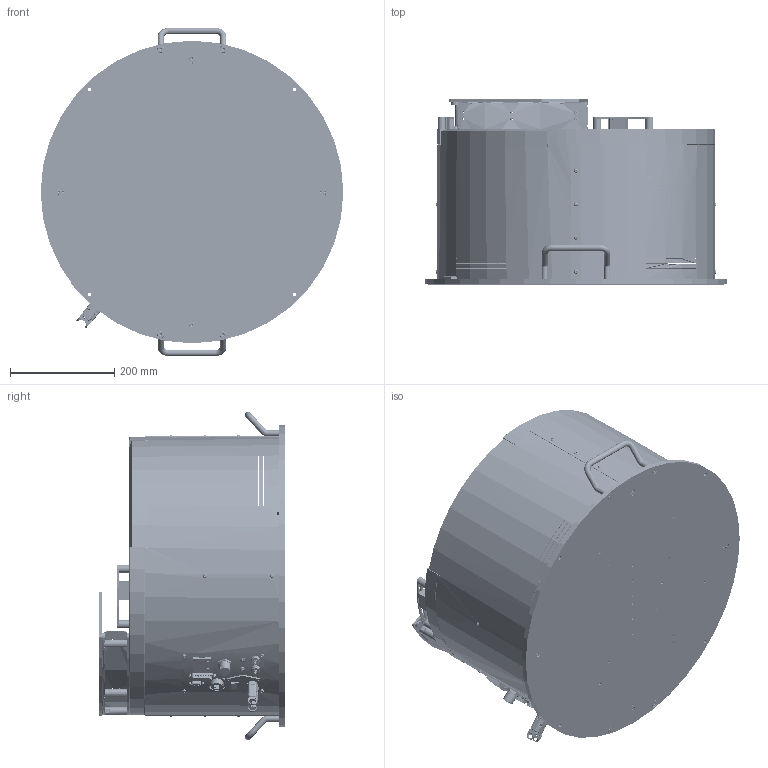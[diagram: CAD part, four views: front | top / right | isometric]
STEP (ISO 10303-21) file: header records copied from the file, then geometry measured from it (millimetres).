
FILE_DESCRIPTION (( 'STEP AP214' ), '1' );
FILE_NAME ('GM000020_FB500C V2.2 Quick Emptying.STEP', '2023-09-18T13:27:19', ( '' ), ( '' ), 'SwSTEP 2.0', 'SolidWorks 2022', '' );
FILE_SCHEMA (( 'AUTOMOTIVE_DESIGN' ));
Length unit declared in the file: millimetre
Products named in the file (77): CM000031; PD006089; GM000020_FB500C V2.2 Quick Emptying; PD001059; PD006086; Copia di 43025-0600^CE000461; CM000015_001; CM000032; CE000078; Copia di CE000325^CE000461; Copia di 39-01-2045^CE000326; CE000276; PD006073; CM000008_005; CE000316; Copia di Connettore te 2 poli - Copia^CE000463; CE000013; PD000043; CE000463; PD006096; CE000007; CM000008; CM000170; PD001118; CM000919; CM000001; CM000037; PD006088; PD001106; CM000015_002; Copia di Guaina^CE000463; PD001649; Copia di 43025-1600^CE000463; CM000043; PD001112; CM000212; CM000166; CE000005; Copia di 39-01-2025^CE000327; CM000686_001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
Assembly tree (141 placements, depth 3):
  GM000020_FB500C V2.2 Quick Emptying
    CM000032  x4
    CM000031  x4
    CM000048  x12
    CM000170  x4
    CM000166  x4
    CM000021  x11
    CM000025  x4
    CM000043  x2
    CM000006  x4
    CM000051  x4
    CM000091
    CM000037  x4
    CM000015  x2
      CM000015_001
      CM000015_002
    CE000327
      Copia di CE000327^CE000327
      Copia di 39-01-2025^CE000327
    CE000326
      Copia di Led RDY_FLT^CE000326
      Copia di 39-01-2045^CE000326
    CE000461
      Copia di CE000325^CE000461
      Copia di 43025-0600^CE000461
      Copia di Guaina^CE000461
    CE000463
      Copia di connector_a-ds_25_pp-f^CE000463
      Copia di Connettore te 2 poli - Copia^CE000463
      Copia di 39-01-2025^CE000463
      Copia di 43025-1600^CE000463
      Copia di Guaina^CE000463
    PD001071
    CM000001  x2
    PD001440  x4
    PD006073  x2
    PD001642
    PD000709
    PD000031
    PD001106
    PD001112
    PD001059
    PD000043  x4
    PD001118  x2
    PD001119  x2
    PD001120
    PD001117
    CE000078
    PD001360_FB500
    CE000007
    CE000013  x2
    CE000005
    CM000008
      CM000008_001
      CM000008_002
      CM000008_005
    CE000316
    CM000686
      CM000686_001
      CM000686_002
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Bounding box: 580 x 355 x 628.99 mm (x, y, z)
Volume: 6890691.6 mm3; surface area: 2935965.9 mm2
Topology: 144 solids, 163 shells, 10190 faces, 26712 edges, 17311 vertices
Faces by surface type: plane 5440, cylinder 2462, bspline 1102, cone 840, torus 319, sphere 27
Entity records: 418856 total; most frequent: CARTESIAN_POINT 166054, ORIENTED_EDGE 44544, DIRECTION 35276, EDGE_CURVE 22474, VERTEX_POINT 14988, AXIS2_PLACEMENT_3D 11826, LINE 11624, VECTOR 11624
